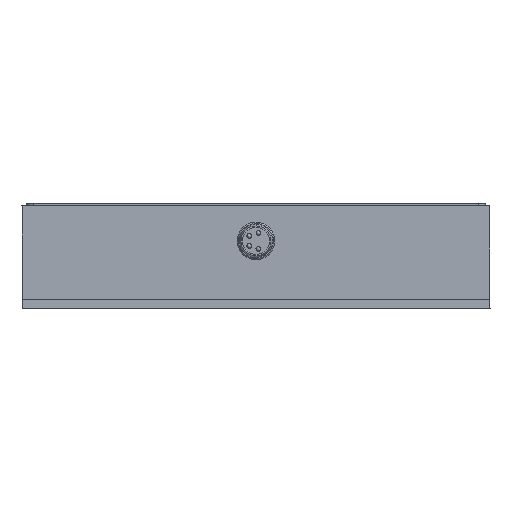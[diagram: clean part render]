
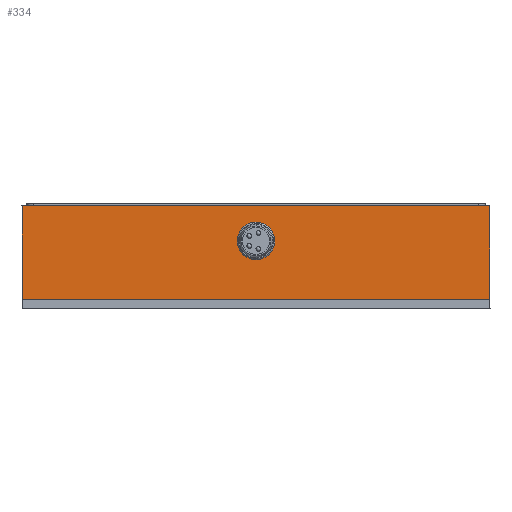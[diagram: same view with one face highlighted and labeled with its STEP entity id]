
A CAD part, left-side view. The second image highlights one B-rep face of the part: STEP entity #334.
In plain terms, the highlighted planar face has unit normal (-1, 0, 0).
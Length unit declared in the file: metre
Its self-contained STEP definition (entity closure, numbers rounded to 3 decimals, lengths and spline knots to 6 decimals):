
#334=ADVANCED_FACE('0:188',(#895,#896),#897,.T.);
#895=FACE_BOUND('',#1718,.T.);
#896=FACE_OUTER_BOUND('',#1719,.T.);
#897=PLANE('',#1720);
#1718=EDGE_LOOP('',(#2721,#2722));
#1719=EDGE_LOOP('',(#2723,#2724,#2725,#2726));
#1720=AXIS2_PLACEMENT_3D('',#2727,#2728,#2729);
#2721=ORIENTED_EDGE('',*,*,#5129,.T.);
#2722=ORIENTED_EDGE('',*,*,#5130,.T.);
#2723=ORIENTED_EDGE('',*,*,#5131,.T.);
#2724=ORIENTED_EDGE('',*,*,#5098,.F.);
#2725=ORIENTED_EDGE('',*,*,#5132,.T.);
#2726=ORIENTED_EDGE('',*,*,#5133,.T.);
#2727=CARTESIAN_POINT('',(-0.1014,-0.000001,0.029522));
#2728=DIRECTION('',(-1.0,0.,0.));
#2729=DIRECTION('',(0.,-1.,0.));
#5098=EDGE_CURVE('',#6089,#6076,#6091,.T.);
#5129=EDGE_CURVE('',#6144,#6145,#6146,.T.);
#5130=EDGE_CURVE('',#6145,#6144,#6147,.T.);
#5131=EDGE_CURVE('',#6148,#6076,#6149,.T.);
#5132=EDGE_CURVE('',#6089,#6150,#6151,.T.);
#5133=EDGE_CURVE('',#6150,#6148,#6152,.T.);
#6076=VERTEX_POINT('',#7509);
#6089=VERTEX_POINT('',#7528);
#6091=LINE('',#7531,#7532);
#6144=VERTEX_POINT('',#7613);
#6145=VERTEX_POINT('',#7614);
#6146=CIRCLE('',#7615,0.00335);
#6147=CIRCLE('',#7616,0.00335);
#6148=VERTEX_POINT('',#7617);
#6149=LINE('',#7618,#7619);
#6150=VERTEX_POINT('',#7620);
#6151=LINE('',#7621,#7622);
#6152=LINE('',#7623,#7624);
#7509=CARTESIAN_POINT('',(-0.1014,0.050003,0.049512));
#7528=CARTESIAN_POINT('',(-0.1014,0.049999,0.029512));
#7531=CARTESIAN_POINT('',(-0.1014,0.049999,0.029512));
#7532=VECTOR('',#10069,1.);
#7613=CARTESIAN_POINT('',(-0.1014,0.003352,0.042023));
#7614=CARTESIAN_POINT('',(-0.1014,-0.003348,0.04202));
#7615=AXIS2_PLACEMENT_3D('',#10097,#10098,#10099);
#7616=AXIS2_PLACEMENT_3D('',#10100,#10101,#10102);
#7617=CARTESIAN_POINT('',(-0.1014,-0.049997,0.049531));
#7618=CARTESIAN_POINT('',(-0.1014,0.050003,0.049512));
#7619=VECTOR('',#10103,1.);
#7620=CARTESIAN_POINT('',(-0.1014,-0.050001,0.029531));
#7621=CARTESIAN_POINT('',(-0.1014,0.049999,0.029512));
#7622=VECTOR('',#10104,1.);
#7623=CARTESIAN_POINT('',(-0.1014,-0.050001,0.029531));
#7624=VECTOR('',#10105,1.);
#10069=DIRECTION('',(0.,0.,1.));
#10097=CARTESIAN_POINT('',(-0.1014,0.000002,0.042022));
#10098=DIRECTION('',(1.0,0.,0.));
#10099=DIRECTION('',(0.,-1.,-0.001));
#10100=CARTESIAN_POINT('',(-0.1014,0.000002,0.042022));
#10101=DIRECTION('',(1.0,0.,0.));
#10102=DIRECTION('',(0.,-1.,-0.001));
#10103=DIRECTION('',(0.,1.,0.));
#10104=DIRECTION('',(0.,-1.,0.));
#10105=DIRECTION('',(0.,0.,1.));
